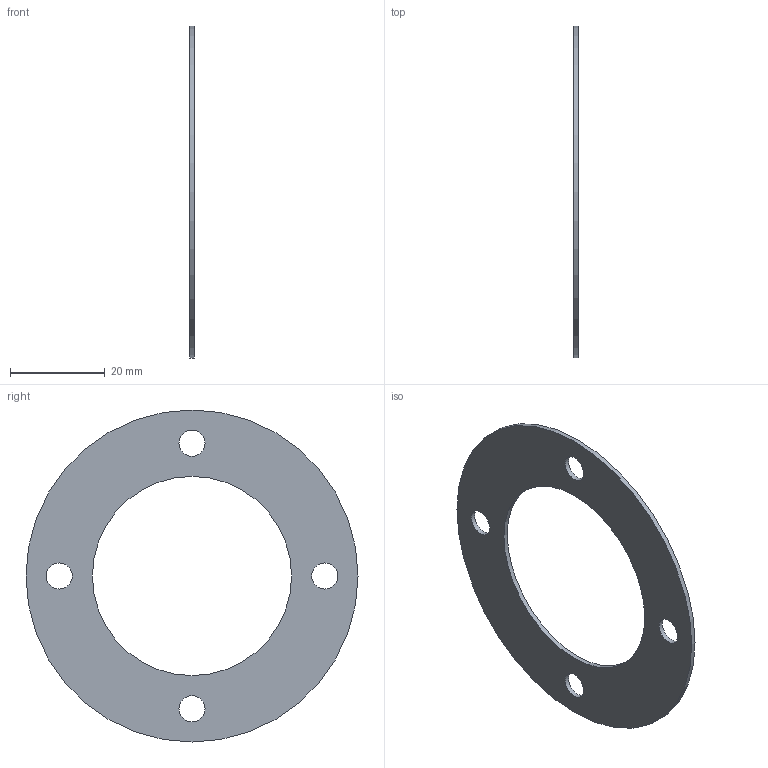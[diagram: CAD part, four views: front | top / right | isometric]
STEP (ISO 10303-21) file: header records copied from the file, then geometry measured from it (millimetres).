
FILE_DESCRIPTION(/* description */ (''),/* implementation_level */ '2;1');
FILE_NAME(/* name */ '',/* time_stamp */ '2024-09-10T16:42:26+09:00',/* author */ ('jhkim'),/* organization */ (''),/* preprocessor_version */ 'ST-DEVELOPER v20',/* originating_system */ 'Autodesk Inventor 2025',/* authorisation */ '');
FILE_SCHEMA (('AUTOMOTIVE_DESIGN { 1 0 10303 214 3 1 1 }'));
Length unit declared in the file: millimetre
Products named in the file (1): 가스켓
Bounding box: 1 x 70 x 70 mm (x, y, z)
Volume: 2368 mm3; surface area: 5156.9 mm2
Topology: 1 solids, 1 shells, 8 faces, 18 edges, 12 vertices
Faces by surface type: cylinder 6, plane 2
Full cylindrical faces by diameter (mm): 5.5 x4, 42 x1, 70 x1
Entity records: 297 total; most frequent: DIRECTION 48, CARTESIAN_POINT 39, ORIENTED_EDGE 36, AXIS2_PLACEMENT_3D 21, EDGE_LOOP 18, EDGE_CURVE 18, CIRCLE 12, VERTEX_POINT 12
